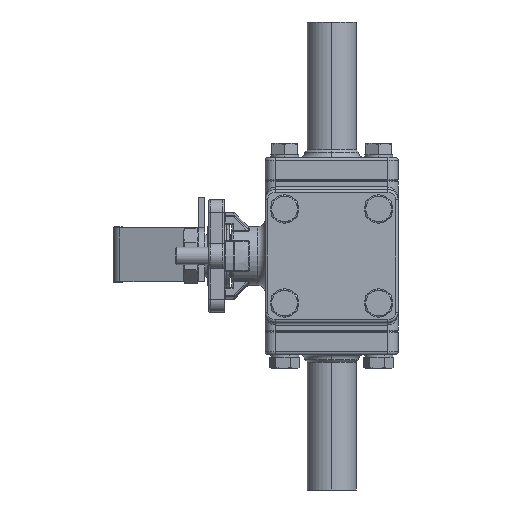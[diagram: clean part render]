
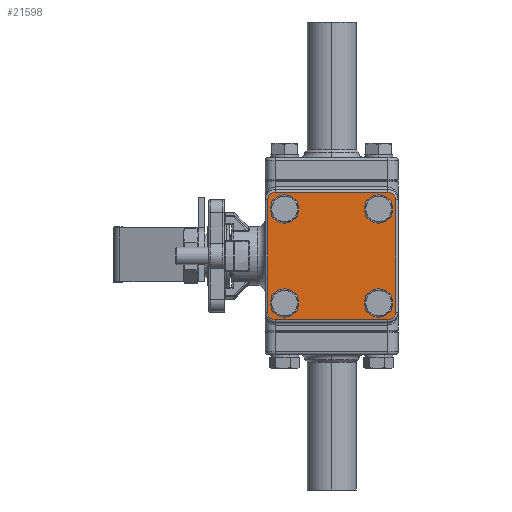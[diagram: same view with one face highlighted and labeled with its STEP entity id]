
A CAD part, left-side view. The second image highlights one B-rep face of the part: STEP entity #21598.
In plain terms, the highlighted planar face has unit normal (-1, 0, 0) as drawn and (0, 0, 1) by its records, which use the part's own axes.
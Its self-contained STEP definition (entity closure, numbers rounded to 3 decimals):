
#466 = EDGE_LOOP ( 'NONE', ( #12092, #28225, #32231, #12409, #17525, #8219, #7096, #25379 ) ) ;
#496 = DIRECTION ( 'NONE',  ( -1., 0., 0. ) ) ;
#1233 = CIRCLE ( 'NONE', #18404, 3. ) ;
#1535 = DIRECTION ( 'NONE',  ( 0., 0., 1. ) ) ;
#1640 = DIRECTION ( 'NONE',  ( 1., 0., 0. ) ) ;
#1840 = FACE_BOUND ( 'NONE', #5190, .T. ) ;
#1893 = EDGE_CURVE ( 'NONE', #14821, #3452, #19887, .T. ) ;
#1923 = VERTEX_POINT ( 'NONE', #12040 ) ;
#2326 = DIRECTION ( 'NONE',  ( 1., 0., 0. ) ) ;
#2855 = VERTEX_POINT ( 'NONE', #24506 ) ;
#3041 = CARTESIAN_POINT ( 'NONE',  ( -18.385, -18.385, 5. ) ) ;
#3452 = VERTEX_POINT ( 'NONE', #18455 ) ;
#3459 = CARTESIAN_POINT ( 'NONE',  ( 25., 22., 5. ) ) ;
#3813 = DIRECTION ( 'NONE',  ( 0., 0., 1. ) ) ;
#3885 = CARTESIAN_POINT ( 'NONE',  ( 18.385, -18.385, 5. ) ) ;
#3970 = EDGE_CURVE ( 'NONE', #1923, #22617, #13986, .T. ) ;
#4183 = CARTESIAN_POINT ( 'NONE',  ( -18.385, 18.385, 5. ) ) ;
#4428 = VERTEX_POINT ( 'NONE', #10999 ) ;
#5004 = EDGE_CURVE ( 'NONE', #7585, #10065, #1233, .T. ) ;
#5190 = EDGE_LOOP ( 'NONE', ( #14641, #27569 ) ) ;
#5334 = EDGE_CURVE ( 'NONE', #33155, #2855, #25511, .T. ) ;
#5874 = DIRECTION ( 'NONE',  ( 0., 0., 1. ) ) ;
#5933 = EDGE_CURVE ( 'NONE', #27827, #8963, #6124, .T. ) ;
#6124 = CIRCLE ( 'NONE', #33395, 3.75 ) ;
#6204 = DIRECTION ( 'NONE',  ( 1., 0., 0. ) ) ;
#6208 = CARTESIAN_POINT ( 'NONE',  ( -25., -22., 5. ) ) ;
#6272 = DIRECTION ( 'NONE',  ( 1., 0., 0. ) ) ;
#6408 = EDGE_LOOP ( 'NONE', ( #31494, #18371 ) ) ;
#6433 = PLANE ( 'NONE',  #26562 ) ;
#6693 = CARTESIAN_POINT ( 'NONE',  ( -22.135, 18.385, 5. ) ) ;
#6966 = DIRECTION ( 'NONE',  ( 1., 0., 0. ) ) ;
#6975 = ORIENTED_EDGE ( 'NONE', *, *, #5933, .F. ) ;
#7096 = ORIENTED_EDGE ( 'NONE', *, *, #18691, .T. ) ;
#7200 = DIRECTION ( 'NONE',  ( 1., 0., 0. ) ) ;
#7340 = CARTESIAN_POINT ( 'NONE',  ( 22.135, 18.385, 5. ) ) ;
#7585 = VERTEX_POINT ( 'NONE', #25008 ) ;
#7614 = LINE ( 'NONE', #7620, #27793 ) ;
#7620 = CARTESIAN_POINT ( 'NONE',  ( -25., -22., 5. ) ) ;
#7674 = AXIS2_PLACEMENT_3D ( 'NONE', #16669, #3813, #6204 ) ;
#8219 = ORIENTED_EDGE ( 'NONE', *, *, #28468, .T. ) ;
#8323 = CARTESIAN_POINT ( 'NONE',  ( -22., 25., 5. ) ) ;
#8408 = CARTESIAN_POINT ( 'NONE',  ( -18.385, -18.385, 5. ) ) ;
#8487 = DIRECTION ( 'NONE',  ( 0., 1., 0. ) ) ;
#8621 = DIRECTION ( 'NONE',  ( 1., 0., 0. ) ) ;
#8856 = DIRECTION ( 'NONE',  ( 0., 0., 1. ) ) ;
#8963 = VERTEX_POINT ( 'NONE', #20285 ) ;
#9449 = DIRECTION ( 'NONE',  ( 1., 0., 0. ) ) ;
#9591 = VERTEX_POINT ( 'NONE', #6208 ) ;
#9896 = LINE ( 'NONE', #3459, #24709 ) ;
#10065 = VERTEX_POINT ( 'NONE', #19138 ) ;
#10177 = CARTESIAN_POINT ( 'NONE',  ( 18.385, 18.385, 5. ) ) ;
#10344 = CIRCLE ( 'NONE', #25462, 3. ) ;
#10360 = AXIS2_PLACEMENT_3D ( 'NONE', #8408, #13695, #8621 ) ;
#10703 = VERTEX_POINT ( 'NONE', #26840 ) ;
#10752 = EDGE_CURVE ( 'NONE', #4428, #33155, #21883, .T. ) ;
#10999 = CARTESIAN_POINT ( 'NONE',  ( 22., 25., 5. ) ) ;
#11130 = DIRECTION ( 'NONE',  ( 0., 0., 1. ) ) ;
#11471 = CARTESIAN_POINT ( 'NONE',  ( 22., 22., 5. ) ) ;
#11857 = EDGE_CURVE ( 'NONE', #23295, #4428, #10344, .T. ) ;
#12040 = CARTESIAN_POINT ( 'NONE',  ( -14.635, 18.385, 5. ) ) ;
#12045 = VECTOR ( 'NONE', #496, 1000. ) ;
#12050 = CARTESIAN_POINT ( 'NONE',  ( 22., -25., 5. ) ) ;
#12092 = ORIENTED_EDGE ( 'NONE', *, *, #24954, .T. ) ;
#12287 = DIRECTION ( 'NONE',  ( 0., 0., 1. ) ) ;
#12394 = CARTESIAN_POINT ( 'NONE',  ( -22.135, -18.385, 5. ) ) ;
#12409 = ORIENTED_EDGE ( 'NONE', *, *, #5334, .T. ) ;
#12788 = DIRECTION ( 'NONE',  ( 0., 0., 1. ) ) ;
#13474 = DIRECTION ( 'NONE',  ( 0., -1., 0. ) ) ;
#13695 = DIRECTION ( 'NONE',  ( 0., 0., 1. ) ) ;
#13860 = AXIS2_PLACEMENT_3D ( 'NONE', #3041, #5874, #24274 ) ;
#13986 = CIRCLE ( 'NONE', #23434, 3.75 ) ;
#14576 = DIRECTION ( 'NONE',  ( 0., 0., 1. ) ) ;
#14641 = ORIENTED_EDGE ( 'NONE', *, *, #15492, .F. ) ;
#14712 = CIRCLE ( 'NONE', #18315, 3.75 ) ;
#14821 = VERTEX_POINT ( 'NONE', #28229 ) ;
#15003 = FACE_BOUND ( 'NONE', #29186, .T. ) ;
#15060 = EDGE_CURVE ( 'NONE', #10703, #23248, #25851, .T. ) ;
#15108 = CIRCLE ( 'NONE', #13860, 3.75 ) ;
#15492 = EDGE_CURVE ( 'NONE', #23248, #10703, #15108, .T. ) ;
#15806 = ORIENTED_EDGE ( 'NONE', *, *, #3970, .F. ) ;
#16534 = VERTEX_POINT ( 'NONE', #32156 ) ;
#16669 = CARTESIAN_POINT ( 'NONE',  ( 18.385, 18.385, 5. ) ) ;
#16949 = ORIENTED_EDGE ( 'NONE', *, *, #27208, .F. ) ;
#17525 = ORIENTED_EDGE ( 'NONE', *, *, #21459, .T. ) ;
#17611 = LINE ( 'NONE', #12050, #24605 ) ;
#18059 = CARTESIAN_POINT ( 'NONE',  ( -18.385, 18.385, 5. ) ) ;
#18315 = AXIS2_PLACEMENT_3D ( 'NONE', #4183, #1535, #19924 ) ;
#18335 = DIRECTION ( 'NONE',  ( 1., 0., 0. ) ) ;
#18371 = ORIENTED_EDGE ( 'NONE', *, *, #19035, .F. ) ;
#18404 = AXIS2_PLACEMENT_3D ( 'NONE', #22439, #19696, #9449 ) ;
#18455 = CARTESIAN_POINT ( 'NONE',  ( 22.135, -18.385, 5. ) ) ;
#18691 = EDGE_CURVE ( 'NONE', #16534, #7585, #17611, .T. ) ;
#19035 = EDGE_CURVE ( 'NONE', #3452, #14821, #32420, .T. ) ;
#19138 = CARTESIAN_POINT ( 'NONE',  ( 25., -22., 5. ) ) ;
#19696 = DIRECTION ( 'NONE',  ( 0., 0., 1. ) ) ;
#19887 = CIRCLE ( 'NONE', #27917, 3.75 ) ;
#19924 = DIRECTION ( 'NONE',  ( 1., 0., 0. ) ) ;
#20285 = CARTESIAN_POINT ( 'NONE',  ( 14.635, 18.385, 5. ) ) ;
#20425 = CARTESIAN_POINT ( 'NONE',  ( -22., 22., 5. ) ) ;
#21459 = EDGE_CURVE ( 'NONE', #2855, #9591, #7614, .T. ) ;
#21552 = FACE_OUTER_BOUND ( 'NONE', #466, .T. ) ;
#21598 = ADVANCED_FACE ( 'NONE', ( #21552, #1840, #15003, #21975, #23217 ), #6433, .T. ) ;
#21677 = DIRECTION ( 'NONE',  ( 1., 0., 0. ) ) ;
#21883 = LINE ( 'NONE', #8323, #12045 ) ;
#21975 = FACE_BOUND ( 'NONE', #6408, .T. ) ;
#22439 = CARTESIAN_POINT ( 'NONE',  ( 22., -22., 5. ) ) ;
#22515 = AXIS2_PLACEMENT_3D ( 'NONE', #23266, #26278, #18335 ) ;
#22617 = VERTEX_POINT ( 'NONE', #6693 ) ;
#22651 = CIRCLE ( 'NONE', #7674, 3.75 ) ;
#23217 = FACE_BOUND ( 'NONE', #28681, .T. ) ;
#23248 = VERTEX_POINT ( 'NONE', #12394 ) ;
#23266 = CARTESIAN_POINT ( 'NONE',  ( -22., -22., 5. ) ) ;
#23295 = VERTEX_POINT ( 'NONE', #33199 ) ;
#23434 = AXIS2_PLACEMENT_3D ( 'NONE', #18059, #12788, #2326 ) ;
#24274 = DIRECTION ( 'NONE',  ( 1., 0., 0. ) ) ;
#24506 = CARTESIAN_POINT ( 'NONE',  ( -25., 22., 5. ) ) ;
#24605 = VECTOR ( 'NONE', #7200, 1000. ) ;
#24709 = VECTOR ( 'NONE', #8487, 1000. ) ;
#24954 = EDGE_CURVE ( 'NONE', #10065, #23295, #9896, .T. ) ;
#25008 = CARTESIAN_POINT ( 'NONE',  ( 22., -25., 5. ) ) ;
#25291 = DIRECTION ( 'NONE',  ( 1., 0., 0. ) ) ;
#25379 = ORIENTED_EDGE ( 'NONE', *, *, #5004, .T. ) ;
#25462 = AXIS2_PLACEMENT_3D ( 'NONE', #11471, #11130, #21677 ) ;
#25484 = ORIENTED_EDGE ( 'NONE', *, *, #33813, .F. ) ;
#25511 = CIRCLE ( 'NONE', #31215, 3. ) ;
#25851 = CIRCLE ( 'NONE', #10360, 3.75 ) ;
#26198 = CIRCLE ( 'NONE', #22515, 3. ) ;
#26278 = DIRECTION ( 'NONE',  ( 0., 0., 1. ) ) ;
#26562 = AXIS2_PLACEMENT_3D ( 'NONE', #27502, #8856, #30149 ) ;
#26840 = CARTESIAN_POINT ( 'NONE',  ( -14.635, -18.385, 5. ) ) ;
#27208 = EDGE_CURVE ( 'NONE', #22617, #1923, #14712, .T. ) ;
#27389 = CARTESIAN_POINT ( 'NONE',  ( -22., 25., 5. ) ) ;
#27502 = CARTESIAN_POINT ( 'NONE',  ( 22., -22., 5. ) ) ;
#27569 = ORIENTED_EDGE ( 'NONE', *, *, #15060, .F. ) ;
#27793 = VECTOR ( 'NONE', #13474, 1000. ) ;
#27827 = VERTEX_POINT ( 'NONE', #7340 ) ;
#27917 = AXIS2_PLACEMENT_3D ( 'NONE', #33079, #14576, #6966 ) ;
#28225 = ORIENTED_EDGE ( 'NONE', *, *, #11857, .T. ) ;
#28229 = CARTESIAN_POINT ( 'NONE',  ( 14.635, -18.385, 5. ) ) ;
#28468 = EDGE_CURVE ( 'NONE', #9591, #16534, #26198, .T. ) ;
#28681 = EDGE_LOOP ( 'NONE', ( #16949, #15806 ) ) ;
#29186 = EDGE_LOOP ( 'NONE', ( #25484, #6975 ) ) ;
#29983 = DIRECTION ( 'NONE',  ( 0., 0., 1. ) ) ;
#30149 = DIRECTION ( 'NONE',  ( 1., 0., 0. ) ) ;
#31215 = AXIS2_PLACEMENT_3D ( 'NONE', #20425, #12287, #25291 ) ;
#31494 = ORIENTED_EDGE ( 'NONE', *, *, #1893, .F. ) ;
#32156 = CARTESIAN_POINT ( 'NONE',  ( -22., -25., 5. ) ) ;
#32231 = ORIENTED_EDGE ( 'NONE', *, *, #10752, .T. ) ;
#32420 = CIRCLE ( 'NONE', #33564, 3.75 ) ;
#32684 = DIRECTION ( 'NONE',  ( 0., 0., 1. ) ) ;
#33079 = CARTESIAN_POINT ( 'NONE',  ( 18.385, -18.385, 5. ) ) ;
#33155 = VERTEX_POINT ( 'NONE', #27389 ) ;
#33199 = CARTESIAN_POINT ( 'NONE',  ( 25., 22., 5. ) ) ;
#33395 = AXIS2_PLACEMENT_3D ( 'NONE', #10177, #32684, #1640 ) ;
#33564 = AXIS2_PLACEMENT_3D ( 'NONE', #3885, #29983, #6272 ) ;
#33813 = EDGE_CURVE ( 'NONE', #8963, #27827, #22651, .T. ) ;
